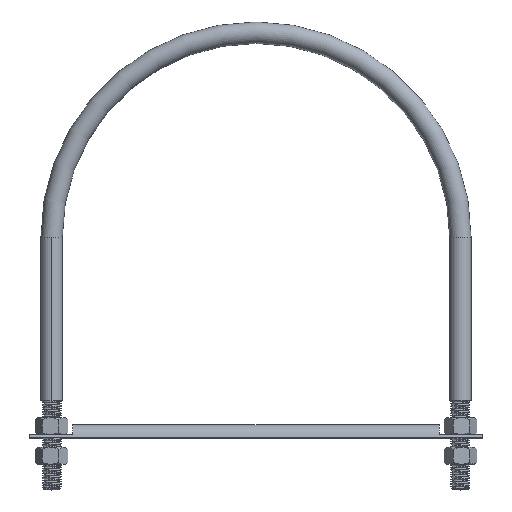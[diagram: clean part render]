
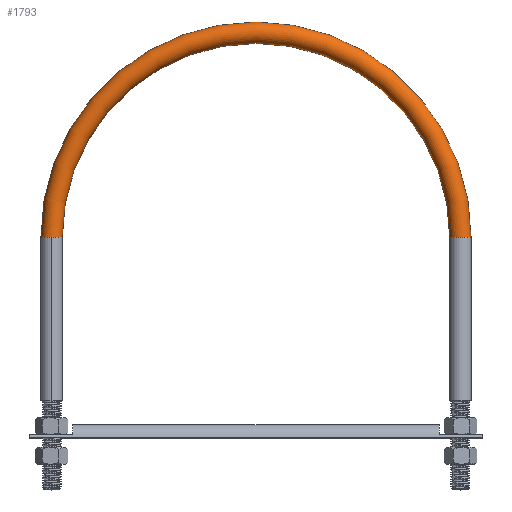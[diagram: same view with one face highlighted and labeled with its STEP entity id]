
A CAD part, top view. The second image highlights one B-rep face of the part: STEP entity #1793.
In plain terms, the highlighted toroidal (fillet/blend) face has major radius 274.637 mm and minor radius 14.383 mm.
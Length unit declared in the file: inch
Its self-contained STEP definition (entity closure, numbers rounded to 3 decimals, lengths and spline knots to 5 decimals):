
#477 = DIRECTION ( 'NONE',  ( 0., -1., 0. ) ) ;
#740 = CARTESIAN_POINT ( 'NONE',  ( 0., 13.375, 0. ) ) ;
#1613 = ORIENTED_EDGE ( 'NONE', *, *, #3195, .T. ) ;
#1793 = ADVANCED_FACE ( 'Face1', ( #11508 ), #16418, .T. ) ;
#1977 = CIRCLE ( 'NONE', #13289, 0.56625 ) ;
#2671 = CARTESIAN_POINT ( 'NONE',  ( 11.37875, 13.375, 0. ) ) ;
#3195 = EDGE_CURVE ( 'NONE', #10275, #6297, #12524, .T. ) ;
#3307 = AXIS2_PLACEMENT_3D ( 'NONE', #740, #4076, #7205 ) ;
#3402 = CARTESIAN_POINT ( 'NONE',  ( -10.8125, 13.375, 0. ) ) ;
#3786 = EDGE_CURVE ( 'NONE', #6297, #16082, #6750, .T. ) ;
#3824 = AXIS2_PLACEMENT_3D ( 'NONE', #6220, #17038, #12467 ) ;
#4076 = DIRECTION ( 'NONE',  ( 0., 0., 1. ) ) ;
#4111 = DIRECTION ( 'NONE',  ( 0., 0., 1. ) ) ;
#5725 = CARTESIAN_POINT ( 'NONE',  ( -10.24625, 13.375, 0. ) ) ;
#5765 = EDGE_CURVE ( 'Edge1', #10236, #8439, #18378, .T. ) ;
#6220 = CARTESIAN_POINT ( 'NONE',  ( 10.8125, 13.375, 0. ) ) ;
#6297 = VERTEX_POINT ( 'NONE', #2671 ) ;
#6648 = DIRECTION ( 'NONE',  ( 0., 0., 1. ) ) ;
#6750 = CIRCLE ( 'NONE', #11925, 11.37875 ) ;
#6930 = EDGE_LOOP ( 'NONE', ( #1613, #18163, #9250, #14479, #18522 ) ) ;
#7205 = DIRECTION ( 'NONE',  ( 1., 0., 0. ) ) ;
#7242 = CARTESIAN_POINT ( 'NONE',  ( -10.8125, 13.375, 0. ) ) ;
#7552 = DIRECTION ( 'NONE',  ( 0., 0., 1. ) ) ;
#8439 = VERTEX_POINT ( 'NONE', #9360 ) ;
#9250 = ORIENTED_EDGE ( 'NONE', *, *, #12536, .F. ) ;
#9360 = CARTESIAN_POINT ( 'NONE',  ( -10.8125, 13.375, 0.56625 ) ) ;
#9441 = CIRCLE ( 'NONE', #3307, 10.24625 ) ;
#9660 = AXIS2_PLACEMENT_3D ( 'NONE', #7242, #15043, #4111 ) ;
#10236 = VERTEX_POINT ( 'NONE', #5725 ) ;
#10275 = VERTEX_POINT ( 'NONE', #16549 ) ;
#10412 = DIRECTION ( 'NONE',  ( 1., 0., 0. ) ) ;
#10688 = DIRECTION ( 'NONE',  ( 1., 0., 0. ) ) ;
#11508 = FACE_OUTER_BOUND ( 'NONE', #6930, .T. ) ;
#11706 = CARTESIAN_POINT ( 'NONE',  ( -11.37875, 13.375, 0. ) ) ;
#11820 = DIRECTION ( 'NONE',  ( 0., 0., 1. ) ) ;
#11925 = AXIS2_PLACEMENT_3D ( 'NONE', #19683, #7552, #10688 ) ;
#12467 = DIRECTION ( 'NONE',  ( 0., 0., 1. ) ) ;
#12524 = CIRCLE ( 'NONE', #3824, 0.56625 ) ;
#12536 = EDGE_CURVE ( 'Edge1', #8439, #16082, #1977, .T. ) ;
#13289 = AXIS2_PLACEMENT_3D ( 'NONE', #3402, #477, #6648 ) ;
#13639 = CARTESIAN_POINT ( 'NONE',  ( 0., 13.375, 0. ) ) ;
#13822 = AXIS2_PLACEMENT_3D ( 'NONE', #13639, #11820, #10412 ) ;
#14479 = ORIENTED_EDGE ( 'NONE', *, *, #5765, .F. ) ;
#15043 = DIRECTION ( 'NONE',  ( 0., -1., 0. ) ) ;
#16082 = VERTEX_POINT ( 'NONE', #11706 ) ;
#16418 = TOROIDAL_SURFACE ( 'NONE', #13822, 10.8125, 0.56625 ) ;
#16549 = CARTESIAN_POINT ( 'NONE',  ( 10.24625, 13.375, 0. ) ) ;
#17038 = DIRECTION ( 'NONE',  ( 0., 1., 0. ) ) ;
#18163 = ORIENTED_EDGE ( 'NONE', *, *, #3786, .T. ) ;
#18378 = CIRCLE ( 'NONE', #9660, 0.56625 ) ;
#18522 = ORIENTED_EDGE ( 'NONE', *, *, #19784, .F. ) ;
#19683 = CARTESIAN_POINT ( 'NONE',  ( 0., 13.375, 0. ) ) ;
#19784 = EDGE_CURVE ( 'NONE', #10275, #10236, #9441, .T. ) ;
